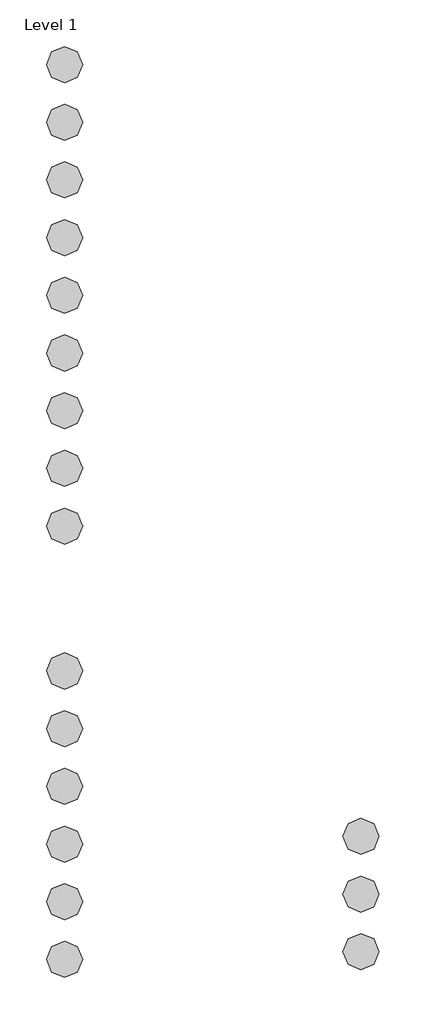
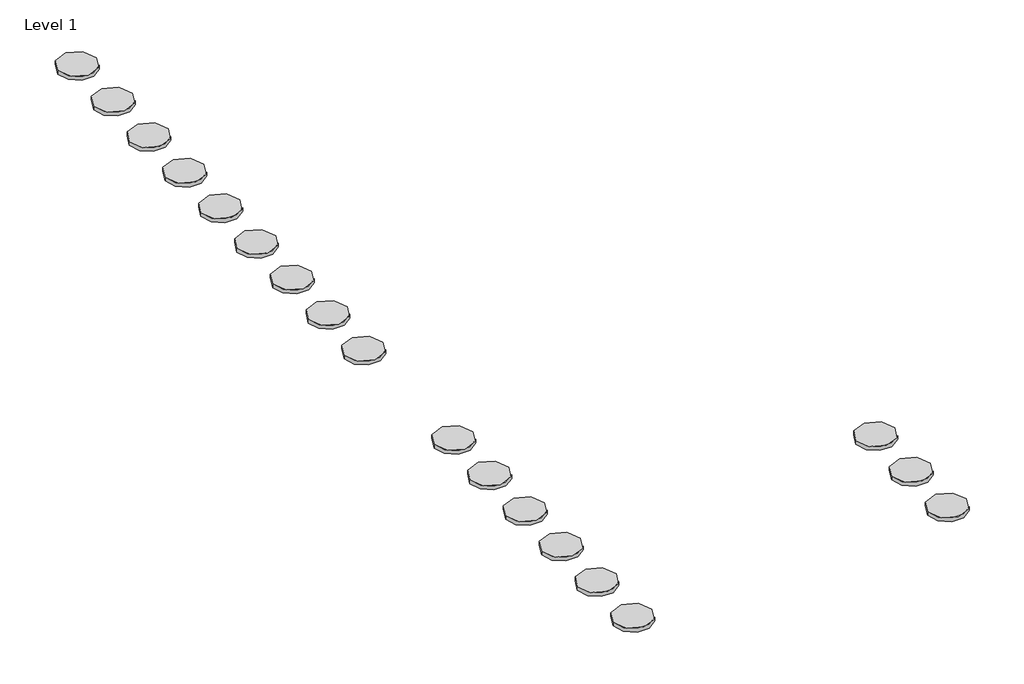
# One storey, incomplete: 18 proxies.
"""IFC4 building model written with IfcOpenShell, lengths in millimetres."""

import ifcopenshell
import ifcopenshell.guid

model = None  # the IFC model being written
_history = None  # IfcOwnerHistory: only IFC2X3 demands one
_inside = {}  # id of a spatial element -> (the spatial element, [elements in it])
_under = {}  # id of a project, library or spatial element -> (it, [spatial elements below it])
_declared = {}  # id of a project -> (the project, [libraries it declares])
_typed = {}  # id of a type object -> (the type object, [elements of that type])
_made_of = {}  # id of a material, layer set ... -> (it, [elements and type objects made of it])


def new_model(schema):
    """Start an empty IFC model of exactly this schema.

    Asked for "IFC4X3", IfcOpenShell would pick the latest addendum, in which some entities
    have other attributes; the version numbers below select the first issue.
    IFC2X3 requires an IfcOwnerHistory on every rooted entity: one is made here for all.
    """
    global model, _history
    if schema == "IFC4X3":
        model = ifcopenshell.file(schema_version=(4, 3, 0, 0))
    else:
        model = ifcopenshell.file(schema=schema)
    _inside.clear()
    _under.clear()
    _declared.clear()
    _typed.clear()
    _made_of.clear()
    _history = None
    if model.schema == "IFC2X3":
        org = make("IfcOrganization", Name="unknown")
        user = make(
            "IfcPersonAndOrganization",
            ThePerson=make("IfcPerson", FamilyName="unknown"),
            TheOrganization=org,
        )
        app = make(
            "IfcApplication",
            ApplicationDeveloper=org,
            Version="unknown",
            ApplicationFullName="unknown",
            ApplicationIdentifier="unknown",
        )
        _history = make(
            "IfcOwnerHistory",
            OwningUser=user,
            OwningApplication=app,
            ChangeAction="ADDED",
            CreationDate=0,
        )
    return model


def make(cls, **values):
    """One entity of the class cls with the attributes given. An attribute that is None is left unset."""
    return model.create_entity(
        cls, **{name: value for name, value in values.items() if value is not None}
    )


def rooted(cls, **values):
    """An entity with a GlobalId (a new one), such as an element, a storey or a relation."""
    return make(cls, GlobalId=ifcopenshell.guid.new(), OwnerHistory=_history, **values)


def si_unit(unit_type, name, prefix=None):
    """IfcSIUnit, for example si_unit("LENGTHUNIT", "METRE", prefix="MILLI")."""
    return make("IfcSIUnit", UnitType=unit_type, Prefix=prefix, Name=name)


def assignment(units):
    """IfcUnitAssignment: the units of a project."""
    return None if units is None else make("IfcUnitAssignment", Units=units)


def point(xyz):
    """IfcCartesianPoint."""
    return None if xyz is None else make("IfcCartesianPoint", Coordinates=xyz)


def direction(xyz):
    """IfcDirection."""
    return None if xyz is None else make("IfcDirection", DirectionRatios=xyz)


def frame(location, z_axis=None, x_axis=None):
    """IfcAxis2Placement3D, a coordinate frame: its origin and axes. An axis left out is left unset."""
    return make(
        "IfcAxis2Placement3D",
        Location=point(location),
        Axis=direction(z_axis),
        RefDirection=direction(x_axis),
    )


def frame_2d(location, x_axis=None):
    """IfcAxis2Placement2D, a coordinate frame in the plane: its origin and x axis."""
    return make(
        "IfcAxis2Placement2D", Location=point(location), RefDirection=direction(x_axis)
    )


def origin():
    """The frame at (0, 0, 0) with its axes left unset."""
    return frame((0.0, 0.0, 0.0))


def origin_with_axes():
    """The frame at (0, 0, 0) with the z axis (0, 0, 1) and the x axis (1, 0, 0) written out."""
    return frame((0.0, 0.0, 0.0), z_axis=(0.0, 0.0, 1.0), x_axis=(1.0, 0.0, 0.0))


def origin_2d():
    """The frame at (0, 0) in the plane with its x axis left unset."""
    return frame_2d((0.0, 0.0))


def place(relative_to, where):
    """IfcLocalPlacement: puts the frame where relative to a parent placement (None: the world)."""
    return make(
        "IfcLocalPlacement", PlacementRelTo=relative_to, RelativePlacement=where
    )


def context(
    kind, dimensions, precision=None, world=None, true_north=None, identifier=None
):
    """IfcGeometricRepresentationContext, for example the 3D "Model" context."""
    return make(
        "IfcGeometricRepresentationContext",
        ContextIdentifier=identifier,
        ContextType=kind,
        CoordinateSpaceDimension=dimensions,
        Precision=precision,
        WorldCoordinateSystem=world,
        TrueNorth=true_north,
    )


def project(units=None, contexts=None):
    """IfcProject with its units and contexts."""
    return rooted(
        "IfcProject",
        Name="project",
        RepresentationContexts=contexts,
        UnitsInContext=assignment(units),
    )


def spatial(cls, under=None, at=None, **own):
    """A site, building, storey or space (cls), placed at a placement, below another one or the project."""
    s = rooted(cls, ObjectPlacement=at, **own)
    if under is not None:
        _under.setdefault(under.id(), (under, []))[1].append(s)
    return s


def circle_curve(where, radius):
    """IfcCircle in the frame where."""
    return make("IfcCircle", Position=where, Radius=radius)


def trimmed(basis, trim1, trim2, sense, master):
    """IfcTrimmedCurve: the piece of a basis curve between two trims."""
    return make(
        "IfcTrimmedCurve",
        BasisCurve=basis,
        Trim1=trim1,
        Trim2=trim2,
        SenseAgreement=sense,
        MasterRepresentation=master,
    )


def segment(curve, same_sense, transition):
    """IfcCompositeCurveSegment."""
    return make(
        "IfcCompositeCurveSegment",
        Transition=transition,
        SameSense=same_sense,
        ParentCurve=curve,
    )


def composite_curve(segments, self_intersect=None):
    """IfcCompositeCurve: segments joined end to end."""
    return make("IfcCompositeCurve", Segments=segments, SelfIntersect=self_intersect)


def outline(outer, holes=None, kind="AREA"):
    """IfcArbitraryClosedProfileDef: a profile drawn as a closed curve; with holes, ...WithVoids."""
    if holes is None:
        return make("IfcArbitraryClosedProfileDef", ProfileType=kind, OuterCurve=outer)
    return make(
        "IfcArbitraryProfileDefWithVoids",
        ProfileType=kind,
        OuterCurve=outer,
        InnerCurves=holes,
    )


def extrude(swept, where, along, depth):
    """IfcExtrudedAreaSolid: the profile swept, set in the frame where, extruded along a direction by depth."""
    return make(
        "IfcExtrudedAreaSolid",
        SweptArea=swept,
        Position=where,
        ExtrudedDirection=direction(along),
        Depth=depth,
    )


def shape(context_of_items, identifier, shape_type, items):
    """IfcShapeRepresentation: the items that make up one representation, for example the "Body"."""
    return make(
        "IfcShapeRepresentation",
        ContextOfItems=context_of_items,
        RepresentationIdentifier=identifier,
        RepresentationType=shape_type,
        Items=items,
    )


def source(mapping_origin, context_of_items, identifier, shape_type, items):
    """IfcRepresentationMap: a shape defined once, which mapped items show again and again."""
    return make(
        "IfcRepresentationMap",
        MappingOrigin=mapping_origin,
        MappedRepresentation=shape(context_of_items, identifier, shape_type, items),
    )


def transform(
    local_origin,
    x_axis=None,
    y_axis=None,
    z_axis=None,
    scale=None,
    scale2=None,
    scale3=None,
    uniform=True,
):
    """IfcCartesianTransformationOperator3D, or its non-uniform kind. x_axis, y_axis, z_axis: its Axis1, 2, 3."""
    if uniform:
        return make(
            "IfcCartesianTransformationOperator3D",
            Axis1=direction(x_axis),
            Axis2=direction(y_axis),
            LocalOrigin=point(local_origin),
            Scale=scale,
            Axis3=direction(z_axis),
        )
    return make(
        "IfcCartesianTransformationOperator3DnonUniform",
        Axis1=direction(x_axis),
        Axis2=direction(y_axis),
        LocalOrigin=point(local_origin),
        Scale=scale,
        Axis3=direction(z_axis),
        Scale2=scale2,
        Scale3=scale3,
    )


def mapped(mapping_source, mapping_target):
    """IfcMappedItem: shows the shape of a source again, moved by a transform."""
    return make(
        "IfcMappedItem", MappingSource=mapping_source, MappingTarget=mapping_target
    )


def made_of(thing, what):
    """Note that an element or type object is made of a material, layer set ...; save() writes the relation."""
    if what is not None:
        _made_of.setdefault(what.id(), (what, []))[1].append(thing)
    return thing


def element(
    cls,
    number,
    at=None,
    inside=None,
    cuts=None,
    type_object=None,
    material=None,
    context=None,
    identifier="Body",
    shape_type=None,
    held_by="IfcProductDefinitionShape",
    body=None,
    shapes=None,
    **own,
):
    """One element of the class cls, such as IfcWall. Its Tag is "e" and its number.

    at: its placement. inside: the storey or other place that contains it. cuts: it is an
    opening in that element (IfcRelVoidsElement). A single representation is given by context,
    identifier, shape_type and body (its items); several are given by shapes. held_by: the class
    of the entity that holds the representations. save() writes the other relations.
    """
    e = rooted(cls, Tag="e%d" % number, ObjectPlacement=at, **own)
    if body is not None:
        shapes = [shape(context, identifier, shape_type, body)]
    if shapes is not None:
        e.Representation = make(held_by, Representations=shapes)
    if inside is not None:
        _inside.setdefault(inside.id(), (inside, []))[1].append(e)
    if cuts is not None:
        rooted(
            "IfcRelVoidsElement", RelatingBuildingElement=cuts, RelatedOpeningElement=e
        )
    if type_object is not None:
        _typed.setdefault(type_object.id(), (type_object, []))[1].append(e)
    return made_of(e, material)


def aggregate(whole, parts):
    """IfcRelAggregates: a whole, such as a stair, and the parts it consists of."""
    return rooted("IfcRelAggregates", RelatingObject=whole, RelatedObjects=parts)


def save(model, path):
    """Write the relations noted so far, then the file.

    IfcRelAggregates (storeys below a building ...), IfcRelContainedInSpatialStructure (elements
    in a storey), IfcRelDefinesByType, IfcRelAssociatesMaterial and IfcRelDeclares: one each for
    every whole, place, type object, material and project.
    """
    for whole, parts in _under.values():
        aggregate(whole, parts)
    for where, things in _inside.values():
        rooted(
            "IfcRelContainedInSpatialStructure",
            RelatedElements=things,
            RelatingStructure=where,
        )
    for kind, things in _typed.values():
        rooted("IfcRelDefinesByType", RelatedObjects=things, RelatingType=kind)
    for what, things in _made_of.values():
        rooted("IfcRelAssociatesMaterial", RelatedObjects=things, RelatingMaterial=what)
    for by, libraries in _declared.values():
        rooted("IfcRelDeclares", RelatingContext=by, RelatedDefinitions=libraries)
    model.write(path)


def materialmodel_materialmodel_ac00f72a(model_context):
    return source(origin(), model_context, "Body", "SweptSolid", [
        extrude(outline(composite_curve([segment(trimmed(circle_curve(origin_2d(), 100.0), [point((-100.0, 0.0))], [point((100.0, 0.0))], False, "CARTESIAN"), True, "CONTINUOUS"), segment(trimmed(circle_curve(origin_2d(), 100.0), [point((100.0, 0.0))], [point((-100.0, 0.0))], False, "CARTESIAN"), True, "CONTINUOUS")], self_intersect=False)), origin_with_axes(), (0.0, 0.0, 1.0), 20.0),
    ])


model = new_model("IFC4")

# Units and contexts
model_context = context("Model", 3, world=origin())
ifc_project = project(units=[si_unit("LENGTHUNIT", "METRE", prefix="MILLI")], contexts=[model_context])

# Site, building, storey
site = spatial("IfcSite", under=ifc_project)
building = spatial("IfcBuilding", under=site)
storey = spatial("IfcBuildingStorey", under=building, Name="Level 1", Elevation=0.0)

# Proxies
placement = place(None, origin())
materialmodel_materialmodel_shape = materialmodel_materialmodel_ac00f72a(model_context)
element("IfcBuildingElementProxy", 1, Name="MaterialModel : MaterialModel", ObjectType="MaterialModel : MaterialModel", at=placement, inside=storey, context=model_context, shape_type="MappedRepresentation", body=[
    mapped(materialmodel_materialmodel_shape, transform((-10325.5786717, 6393.3237981, 0.0), x_axis=(1.0, 0.0, 0.0), y_axis=(0.0, 1.0, 0.0), z_axis=(0.0, 0.0, 1.0))),
])
element("IfcBuildingElementProxy", 2, Name="MaterialModel : MaterialModel", ObjectType="MaterialModel : MaterialModel", at=placement, inside=storey, context=model_context, shape_type="MappedRepresentation", body=[
    mapped(materialmodel_materialmodel_shape, transform((-10325.5786717, 6073.3237981, 0.0), x_axis=(1.0, 0.0, 0.0), y_axis=(0.0, 1.0, 0.0), z_axis=(0.0, 0.0, 1.0))),
])
element("IfcBuildingElementProxy", 3, Name="MaterialModel : MaterialModel", ObjectType="MaterialModel : MaterialModel", at=placement, inside=storey, context=model_context, shape_type="MappedRepresentation", body=[
    mapped(materialmodel_materialmodel_shape, transform((-10325.5786717, 5753.3237981, 0.0), x_axis=(1.0, 0.0, 0.0), y_axis=(0.0, 1.0, 0.0), z_axis=(0.0, 0.0, 1.0))),
])
element("IfcBuildingElementProxy", 4, Name="MaterialModel : MaterialModel", ObjectType="MaterialModel : MaterialModel", at=placement, inside=storey, context=model_context, shape_type="MappedRepresentation", body=[
    mapped(materialmodel_materialmodel_shape, transform((-10325.5786717, 5433.3237981, 0.0), x_axis=(1.0, 0.0, 0.0), y_axis=(0.0, 1.0, 0.0), z_axis=(0.0, 0.0, 1.0))),
])
element("IfcBuildingElementProxy", 5, Name="MaterialModel : MaterialModel", ObjectType="MaterialModel : MaterialModel", at=placement, inside=storey, context=model_context, shape_type="MappedRepresentation", body=[
    mapped(materialmodel_materialmodel_shape, transform((-10325.5786717, 5113.3237981, 0.0), x_axis=(1.0, 0.0, 0.0), y_axis=(0.0, 1.0, 0.0), z_axis=(0.0, 0.0, 1.0))),
])
element("IfcBuildingElementProxy", 6, Name="MaterialModel : MaterialModel", ObjectType="MaterialModel : MaterialModel", at=placement, inside=storey, context=model_context, shape_type="MappedRepresentation", body=[
    mapped(materialmodel_materialmodel_shape, transform((-10325.5786717, 4793.3237981, 0.0), x_axis=(1.0, 0.0, 0.0), y_axis=(0.0, 1.0, 0.0), z_axis=(0.0, 0.0, 1.0))),
])
element("IfcBuildingElementProxy", 7, Name="MaterialModel : MaterialModel", ObjectType="MaterialModel : MaterialModel", at=placement, inside=storey, context=model_context, shape_type="MappedRepresentation", body=[
    mapped(materialmodel_materialmodel_shape, transform((-10325.5786717, 2709.5894519, 0.0), x_axis=(1.0, 0.0, 0.0), y_axis=(0.0, 1.0, 0.0), z_axis=(0.0, 0.0, 1.0))),
])
element("IfcBuildingElementProxy", 8, Name="MaterialModel : MaterialModel", ObjectType="MaterialModel : MaterialModel", at=placement, inside=storey, context=model_context, shape_type="MappedRepresentation", body=[
    mapped(materialmodel_materialmodel_shape, transform((-10325.5786717, 2389.5894519, 0.0), x_axis=(1.0, 0.0, 0.0), y_axis=(0.0, 1.0, 0.0), z_axis=(0.0, 0.0, 1.0))),
])
element("IfcBuildingElementProxy", 9, Name="MaterialModel : MaterialModel", ObjectType="MaterialModel : MaterialModel", at=placement, inside=storey, context=model_context, shape_type="MappedRepresentation", body=[
    mapped(materialmodel_materialmodel_shape, transform((-10325.5786717, 1749.5894519, 0.0), x_axis=(1.0, 0.0, 0.0), y_axis=(0.0, 1.0, 0.0), z_axis=(0.0, 0.0, 1.0))),
])
element("IfcBuildingElementProxy", 10, Name="MaterialModel : MaterialModel", ObjectType="MaterialModel : MaterialModel", at=placement, inside=storey, context=model_context, shape_type="MappedRepresentation", body=[
    mapped(materialmodel_materialmodel_shape, transform((-10325.5786717, 2069.5894519, 0.0), x_axis=(1.0, 0.0, 0.0), y_axis=(0.0, 1.0, 0.0), z_axis=(0.0, 0.0, 1.0))),
])
element("IfcBuildingElementProxy", 11, Name="MaterialModel : MaterialModel", ObjectType="MaterialModel : MaterialModel", at=placement, inside=storey, context=model_context, shape_type="MappedRepresentation", body=[
    mapped(materialmodel_materialmodel_shape, transform((-10325.5786717, 1429.5894519, 0.0), x_axis=(1.0, 0.0, 0.0), y_axis=(0.0, 1.0, 0.0), z_axis=(0.0, 0.0, 1.0))),
])
element("IfcBuildingElementProxy", 12, Name="MaterialModel : MaterialModel", ObjectType="MaterialModel : MaterialModel", at=placement, inside=storey, context=model_context, shape_type="MappedRepresentation", body=[
    mapped(materialmodel_materialmodel_shape, transform((-10325.5786717, 3029.5894519, 0.0), x_axis=(1.0, 0.0, 0.0), y_axis=(0.0, 1.0, 0.0), z_axis=(0.0, 0.0, 1.0))),
])
element("IfcBuildingElementProxy", 13, Name="MaterialModel : MaterialModel", ObjectType="MaterialModel : MaterialModel", at=placement, inside=storey, context=model_context, shape_type="MappedRepresentation", body=[
    mapped(materialmodel_materialmodel_shape, transform((-10325.5786717, 4473.3237981, 0.0), x_axis=(1.0, 0.0, 0.0), y_axis=(0.0, 1.0, 0.0), z_axis=(0.0, 0.0, 1.0))),
])
element("IfcBuildingElementProxy", 14, Name="MaterialModel : MaterialModel", ObjectType="MaterialModel : MaterialModel", at=placement, inside=storey, context=model_context, shape_type="MappedRepresentation", body=[
    mapped(materialmodel_materialmodel_shape, transform((-10325.5786717, 4153.3237981, 0.0), x_axis=(1.0, 0.0, 0.0), y_axis=(0.0, 1.0, 0.0), z_axis=(0.0, 0.0, 1.0))),
])
element("IfcBuildingElementProxy", 15, Name="MaterialModel : MaterialModel", ObjectType="MaterialModel : MaterialModel", at=placement, inside=storey, context=model_context, shape_type="MappedRepresentation", body=[
    mapped(materialmodel_materialmodel_shape, transform((-10325.5786717, 3833.3237981, 0.0), x_axis=(1.0, 0.0, 0.0), y_axis=(0.0, 1.0, 0.0), z_axis=(0.0, 0.0, 1.0))),
])
element("IfcBuildingElementProxy", 16, Name="MaterialModel : MaterialModel", ObjectType="MaterialModel : MaterialModel", at=placement, inside=storey, context=model_context, shape_type="MappedRepresentation", body=[
    mapped(materialmodel_materialmodel_shape, transform((-8678.692475, 2112.2527312, 0.0), x_axis=(1.0, 0.0, 0.0), y_axis=(0.0, 1.0, 0.0), z_axis=(0.0, 0.0, 1.0))),
])
element("IfcBuildingElementProxy", 17, Name="MaterialModel : MaterialModel", ObjectType="MaterialModel : MaterialModel", at=placement, inside=storey, context=model_context, shape_type="MappedRepresentation", body=[
    mapped(materialmodel_materialmodel_shape, transform((-8678.692475, 1792.2527312, 0.0), x_axis=(1.0, 0.0, 0.0), y_axis=(0.0, 1.0, 0.0), z_axis=(0.0, 0.0, 1.0))),
])
element("IfcBuildingElementProxy", 18, Name="MaterialModel : MaterialModel", ObjectType="MaterialModel : MaterialModel", at=placement, inside=storey, context=model_context, shape_type="MappedRepresentation", body=[
    mapped(materialmodel_materialmodel_shape, transform((-8678.692475, 1472.2527312, 0.0), x_axis=(1.0, 0.0, 0.0), y_axis=(0.0, 1.0, 0.0), z_axis=(0.0, 0.0, 1.0))),
])

save(model, "model.ifc")
